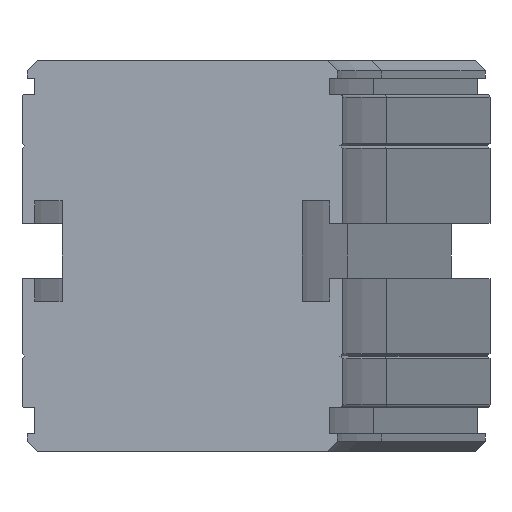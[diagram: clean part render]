
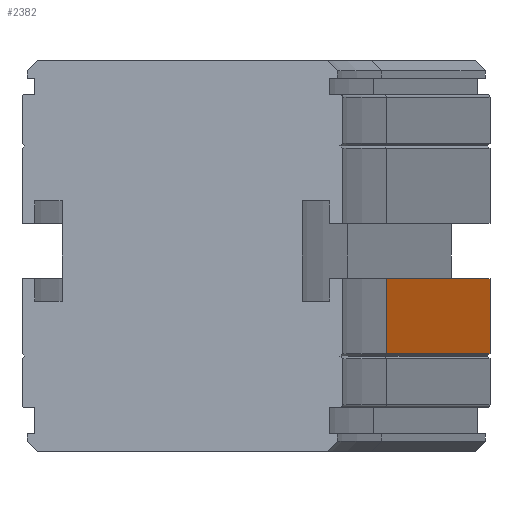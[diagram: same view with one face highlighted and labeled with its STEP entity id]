
A CAD part, left-side view. The second image highlights one B-rep face of the part: STEP entity #2382.
In plain terms, the highlighted planar face has unit normal (-0.259, -0.966, 0).
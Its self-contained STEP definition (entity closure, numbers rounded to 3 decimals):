
#2326=CARTESIAN_POINT('',(223.791,-61.463,-58.5));
#2327=VERTEX_POINT('',#2326);
#2334=CARTESIAN_POINT('',(146.516,-40.757,-58.5));
#2335=VERTEX_POINT('',#2334);
#2336=CARTESIAN_POINT('',(146.516,-40.757,-58.5));
#2337=DIRECTION('',(0.966,-0.259,0.0));
#2338=VECTOR('',#2337,80.);
#2339=LINE('',#2336,#2338);
#2340=EDGE_CURVE('',#2335,#2327,#2339,.T.);
#2352=CARTESIAN_POINT('',(146.516,-40.757,-58.5));
#2353=DIRECTION('',(-0.259,-0.966,0.));
#2354=DIRECTION('',(0.0,0.0,-1.0));
#2355=AXIS2_PLACEMENT_3D('',#2352,#2353,#2354);
#2356=PLANE('',#2355);
#2357=CARTESIAN_POINT('',(223.791,-61.463,-43.5));
#2358=VERTEX_POINT('',#2357);
#2359=CARTESIAN_POINT('',(223.791,-61.463,-58.5));
#2360=DIRECTION('',(0.0,0.0,1.0));
#2361=VECTOR('',#2360,15.);
#2362=LINE('',#2359,#2361);
#2363=EDGE_CURVE('',#2327,#2358,#2362,.T.);
#2364=ORIENTED_EDGE('',*,*,#2363,.T.);
#2365=CARTESIAN_POINT('',(146.516,-40.757,-43.5));
#2366=VERTEX_POINT('',#2365);
#2367=CARTESIAN_POINT('',(146.516,-40.757,-43.5));
#2368=DIRECTION('',(0.966,-0.259,0.0));
#2369=VECTOR('',#2368,80.);
#2370=LINE('',#2367,#2369);
#2371=EDGE_CURVE('',#2366,#2358,#2370,.T.);
#2372=ORIENTED_EDGE('',*,*,#2371,.F.);
#2373=CARTESIAN_POINT('',(146.516,-40.757,-58.5));
#2374=DIRECTION('',(0.0,0.0,1.0));
#2375=VECTOR('',#2374,15.);
#2376=LINE('',#2373,#2375);
#2377=EDGE_CURVE('',#2335,#2366,#2376,.T.);
#2378=ORIENTED_EDGE('',*,*,#2377,.F.);
#2379=ORIENTED_EDGE('',*,*,#2340,.T.);
#2380=EDGE_LOOP('',(#2364,#2372,#2378,#2379));
#2381=FACE_OUTER_BOUND('',#2380,.T.);
#2382=ADVANCED_FACE('',(#2381),#2356,.T.);
